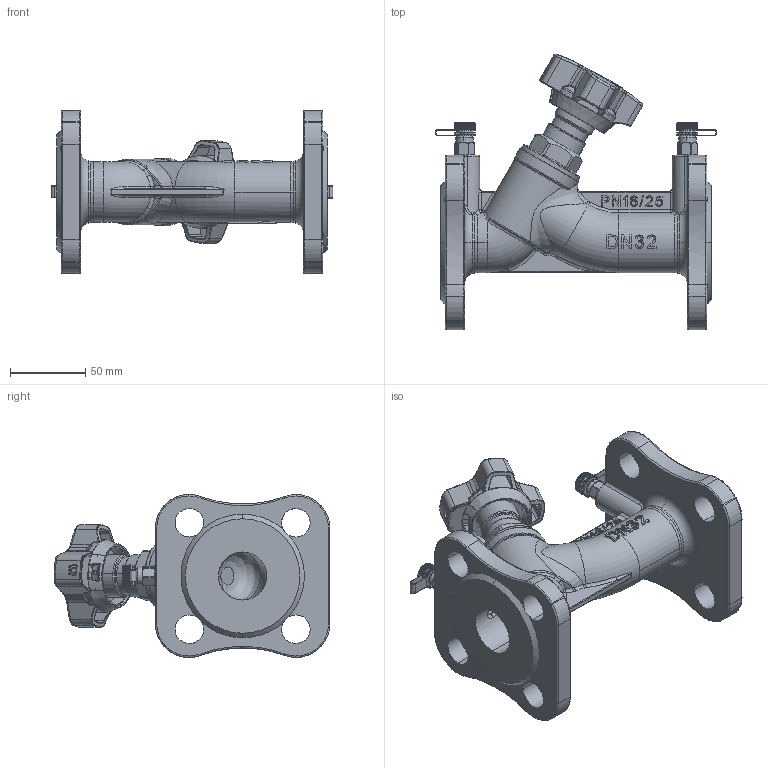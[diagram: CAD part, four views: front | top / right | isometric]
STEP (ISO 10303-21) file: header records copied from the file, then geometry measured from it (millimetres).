
FILE_DESCRIPTION (( 'STEP AP203' ), '1' );
FILE_NAME ('CM003003200 竣艇佴.STEP', '2024-01-10T07:21:42', ( '' ), ( '' ), 'SwSTEP 2.0', 'SolidWorks 2024', '' );
FILE_SCHEMA (( 'CONFIG_CONTROL_DESIGN' ));
Length unit declared in the file: millimetre
Products named in the file (10): O 型圈 8x1; O 型圈; 20503-32-00-z 丹弗斯; 橡胶扣; CM003003201 丹弗斯; 取压咀; 膨胀体; 取压咀主体-30; CM003003200 丹弗斯; 取压咀帽
Assembly tree (10 placements, depth 3):
  CM003003200 丹弗斯
    CM003003201 丹弗斯
    20503-32-00-z 丹弗斯
    取压咀  x2
      取压咀帽
      取压咀主体-30
      膨胀体
      橡胶扣
      O 型圈
      O 型圈 8x1
Bounding box: 187.2 x 183.22 x 108.33 mm (x, y, z)
Volume: 481572.1 mm3; surface area: 157486.7 mm2
Topology: 19 solids, 19 shells, 5481 faces, 14853 edges, 9614 vertices
Faces by surface type: plane 2649, bspline 1164, cylinder 794, cone 507, torus 331, sphere 36
Entity records: 204219 total; most frequent: CARTESIAN_POINT 93508, ORIENTED_EDGE 26304, DIRECTION 17776, EDGE_CURVE 13152, VERTEX_POINT 8530, AXIS2_PLACEMENT_3D 6502, B_SPLINE_CURVE_WITH_KNOTS 5415, EDGE_LOOP 5108
